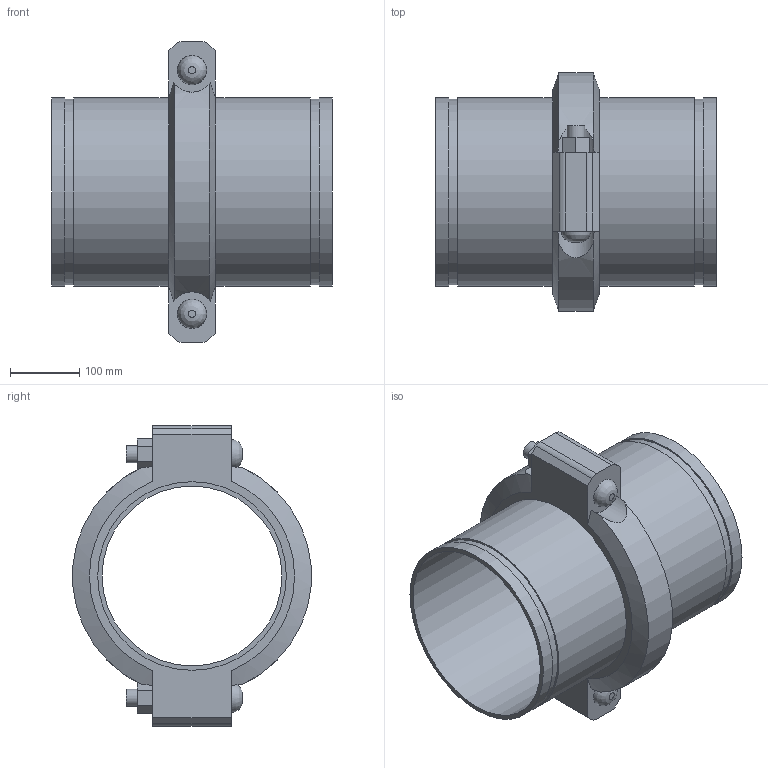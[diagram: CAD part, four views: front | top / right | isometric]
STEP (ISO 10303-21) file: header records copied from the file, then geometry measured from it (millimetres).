
FILE_DESCRIPTION(/* description */ ('VIC SS EXPANSION JOINT 1 COUPLING COMPRESSED STYLE 155P (OGS) (POTABLE WATER) ','CAx-IF Rec.Pracs.---Representation and Presentation of Product Manufacturing Information (PMI)---4.0---2014-10-13'),/* implementation_level */ '2;1');
FILE_NAME(/* name */ 'C:\Users\kkamble\AppData\Roaming\Autodesk\ApplicationPlugins\Victaulic.Temp\A829\Victaulic_SS_Expansion Joint_Compressed_1 Coupling_Style 155P (OGS)-Potable Water_1 Coup_Comp_10 (250).stp',/* time_stamp */ '2021-07-16T17:04:19+06:00',/* author */ ('kkamble'),/* organization */ ('Victaulic'),/* preprocessor_version */ 'ST-DEVELOPER v17.2',/* originating_system */ 'Autodesk Inventor 2019',/* authorisation */ '');
FILE_SCHEMA (('AP242_MANAGED_MODEL_BASED_3D_ENGINEERING_MIM_LF { 1 0 10303 442 1 1 4 }'));
Length unit declared in the file: inch
Products named in the file (3): 155P-10.0; Nipple-10.0; 077-10.0
Assembly tree (3 placements, depth 2):
  155P-10.0
    Nipple-10.0  x2
    077-10.0
Bounding box: 406.4 x 344.9 x 435.1 mm (x, y, z)
Volume: 4980922.1 mm3; surface area: 990571.1 mm2
Topology: 3 solids, 5 shells, 81 faces, 199 edges, 142 vertices
Faces by surface type: plane 46, cylinder 29, cone 4, bspline 2
Full cylindrical faces by diameter (mm): 25.4 x4, 27.432 x2, 260.35 x2, 268.275 x4, 273.05 x7
Entity records: 2461 total; most frequent: CARTESIAN_POINT 586, DIRECTION 363, ORIENTED_EDGE 338, EDGE_CURVE 169, AXIS2_PLACEMENT_3D 141, VERTEX_POINT 118, EDGE_LOOP 87, LINE 81
